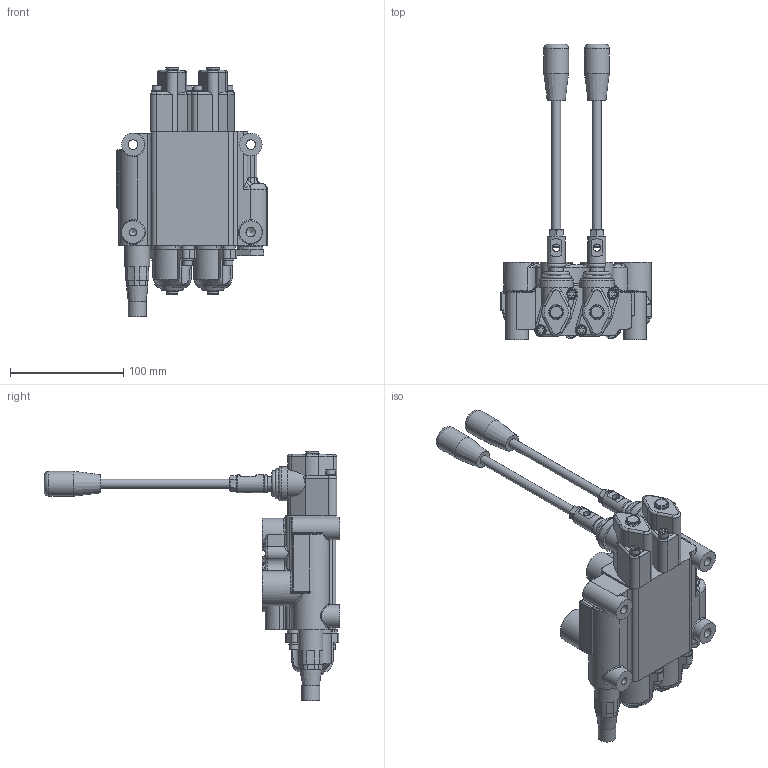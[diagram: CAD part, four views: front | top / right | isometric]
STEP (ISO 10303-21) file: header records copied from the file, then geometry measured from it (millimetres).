
FILE_DESCRIPTION(/* description */ ('TWO SPOOL VALVE ASSY'),/* implementation_level */ '2;1');
FILE_NAME(/* name */ 'Q:\WVS21BB5C1.stp',/* time_stamp */ '2020-01-13T09:17:45-06:00',/* author */ ('PetersW'),/* organization */ ('PRINCE MANUFACTURING'),/* preprocessor_version */ 'ST-DEVELOPER v18',/* originating_system */ 'Autodesk Inventor 2020',/* authorisation */ '0 in^3');
FILE_SCHEMA (('AUTOMOTIVE_DESIGN { 1 0 10303 214 3 1 1 }'));
Products named in the file (8): WVS21BB5C1; WVS_2SpoolBody-01; WVS_Spool; WVS_ReliefCart; WVS_ConversionPlug; WVS_SpringCenterAttachKit; WVS_HandleHousingAssy; WVS_HandleAssyStd
Assembly tree (11 placements, depth 2):
  WVS21BB5C1
    WVS_2SpoolBody-01
    WVS_Spool  x2
    WVS_ReliefCart
    WVS_ConversionPlug
    WVS_SpringCenterAttachKit  x2
    WVS_HandleHousingAssy  x2
    WVS_HandleAssyStd  x2
Bounding box: 133 x 261.26 x 221.16 mm (x, y, z)
Volume: 901053.8 mm3; surface area: 170784.6 mm2
Topology: 11 solids, 11 shells, 959 faces, 2400 edges, 1502 vertices
Faces by surface type: plane 352, cylinder 299, cone 117, torus 94, bspline 84, sphere 13
Full cylindrical faces by diameter (mm): 4 x4, 4.14 x8, 5 x8, 5.3 x8, 6.647 x5, 6.8 x2, 7 x2, 8 x8, 8.3 x4, 8.35 x4, 8.5 x3, 9 x2, 9.5 x6, 10 x3, 11 x2, 11.8 x2, 12 x1, 12.8 x2, 15.25 x2, 15.291 x1, 15.7 x1, 15.799 x2, 15.87 x2, 15.9 x1, 16 x2, 17 x4, 17.066 x6, 17.501 x6, 17.8 x1, 17.86 x2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
Entity records: 26348 total; most frequent: CARTESIAN_POINT 8853, DIRECTION 3580, ORIENTED_EDGE 3488, EDGE_CURVE 1744, AXIS2_PLACEMENT_3D 1476, VERTEX_POINT 1104, CIRCLE 789, EDGE_LOOP 787
